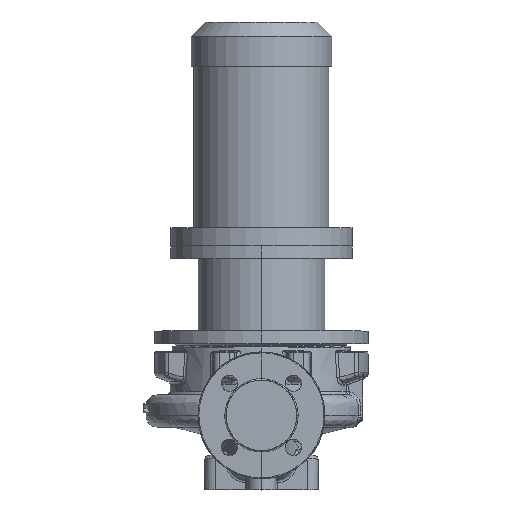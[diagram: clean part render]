
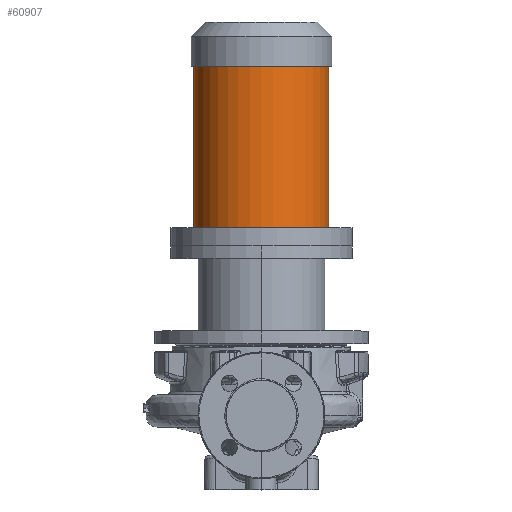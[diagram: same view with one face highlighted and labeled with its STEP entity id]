
A CAD part, top view. The second image highlights one B-rep face of the part: STEP entity #60907.
In plain terms, the highlighted cylindrical face has radius 74.5 mm (diameter 149 mm), a partial arc.
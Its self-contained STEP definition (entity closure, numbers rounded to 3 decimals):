
#381 = EDGE_CURVE ( 'NONE', #56958, #6133, #29213, .T. ) ;
#6133 = VERTEX_POINT ( 'NONE', #47631 ) ;
#7006 = EDGE_CURVE ( 'NONE', #11955, #27247, #11035, .T. ) ;
#7351 = ORIENTED_EDGE ( 'NONE', *, *, #12957, .T. ) ;
#8375 = ORIENTED_EDGE ( 'NONE', *, *, #7006, .T. ) ;
#11035 = LINE ( 'NONE', #70648, #57993 ) ;
#11108 = CARTESIAN_POINT ( 'NONE',  ( -74.5, 207.3, 0. ) ) ;
#11412 = DIRECTION ( 'NONE',  ( 0., -1., 0. ) ) ;
#11955 = VERTEX_POINT ( 'NONE', #65569 ) ;
#12957 = EDGE_CURVE ( 'NONE', #56958, #11955, #24078, .T. ) ;
#15808 = CARTESIAN_POINT ( 'NONE',  ( 0., 385.3, 0. ) ) ;
#16805 = CARTESIAN_POINT ( 'NONE',  ( 0., 187.3, 0. ) ) ;
#16917 = DIRECTION ( 'NONE',  ( 0., -1., 0. ) ) ;
#17695 = AXIS2_PLACEMENT_3D ( 'NONE', #23545, #52635, #52380 ) ;
#17732 = ORIENTED_EDGE ( 'NONE', *, *, #68463, .F. ) ;
#20699 = DIRECTION ( 'NONE',  ( 0., -1., 0. ) ) ;
#23545 = CARTESIAN_POINT ( 'NONE',  ( 0., 207.3, 0. ) ) ;
#24078 = CIRCLE ( 'NONE', #49895, 74.5 ) ;
#24656 = FACE_OUTER_BOUND ( 'NONE', #57858, .T. ) ;
#27247 = VERTEX_POINT ( 'NONE', #11108 ) ;
#28531 = CARTESIAN_POINT ( 'NONE',  ( 74.5, 187.3, 0. ) ) ;
#29213 = LINE ( 'NONE', #28531, #34745 ) ;
#32959 = CYLINDRICAL_SURFACE ( 'NONE', #71491, 74.5 ) ;
#34745 = VECTOR ( 'NONE', #16917, 1000. ) ;
#35468 = DIRECTION ( 'NONE',  ( 0., -1., 0. ) ) ;
#41495 = CIRCLE ( 'NONE', #17695, 74.5 ) ;
#47631 = CARTESIAN_POINT ( 'NONE',  ( 74.5, 207.3, 0. ) ) ;
#49895 = AXIS2_PLACEMENT_3D ( 'NONE', #15808, #20699, #74202 ) ;
#52380 = DIRECTION ( 'NONE',  ( -1., 0., 0. ) ) ;
#52571 = DIRECTION ( 'NONE',  ( -1., 0., 0. ) ) ;
#52635 = DIRECTION ( 'NONE',  ( 0., -1., 0. ) ) ;
#56958 = VERTEX_POINT ( 'NONE', #74173 ) ;
#57858 = EDGE_LOOP ( 'NONE', ( #61392, #7351, #8375, #17732 ) ) ;
#57993 = VECTOR ( 'NONE', #35468, 1000. ) ;
#60907 = ADVANCED_FACE ( 'NONE', ( #24656 ), #32959, .T. ) ;
#61392 = ORIENTED_EDGE ( 'NONE', *, *, #381, .F. ) ;
#65569 = CARTESIAN_POINT ( 'NONE',  ( -74.5, 385.3, 0. ) ) ;
#68463 = EDGE_CURVE ( 'NONE', #6133, #27247, #41495, .T. ) ;
#70648 = CARTESIAN_POINT ( 'NONE',  ( -74.5, 187.3, 0. ) ) ;
#71491 = AXIS2_PLACEMENT_3D ( 'NONE', #16805, #11412, #52571 ) ;
#74173 = CARTESIAN_POINT ( 'NONE',  ( 74.5, 385.3, 0. ) ) ;
#74202 = DIRECTION ( 'NONE',  ( -1., 0., 0. ) ) ;
